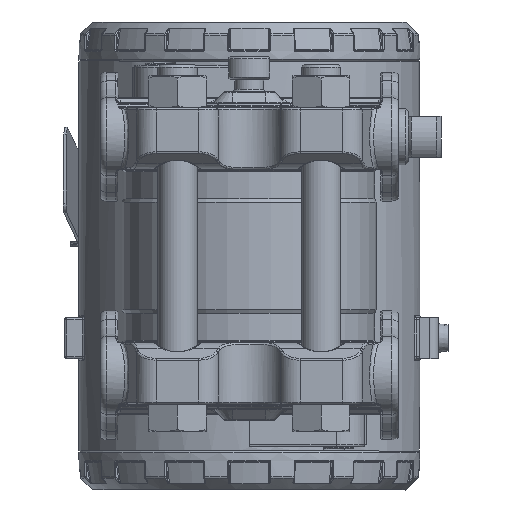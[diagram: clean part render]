
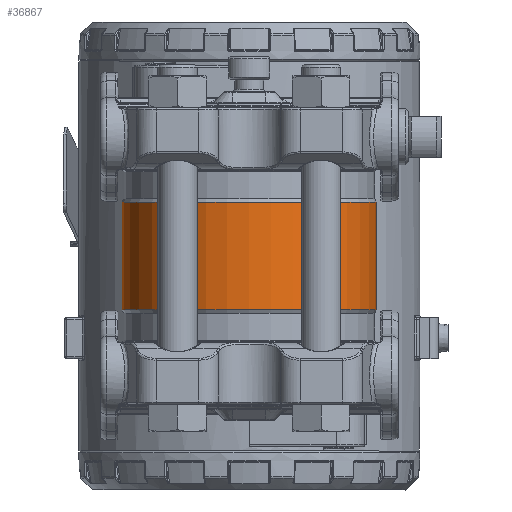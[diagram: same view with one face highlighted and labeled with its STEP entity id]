
A CAD part, left-side view. The second image highlights one B-rep face of the part: STEP entity #36867.
In plain terms, the highlighted cylindrical face has radius 31 mm (diameter 62 mm), a full revolution.
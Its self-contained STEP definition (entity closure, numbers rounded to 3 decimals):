
#1639=B_SPLINE_CURVE_WITH_KNOTS('',3,(#65266,#65267,#65268,#65269,#65270,
#65271),.UNSPECIFIED.,.F.,.F.,(4,1,1,4),(0.,0.548,0.913,
1.279),.UNSPECIFIED.);
#1640=B_SPLINE_CURVE_WITH_KNOTS('',3,(#65315,#65316,#65317,#65318,#65319,
#65320,#65321),.UNSPECIFIED.,.F.,.F.,(4,1,1,1,4),(0.,0.274,
0.548,0.913,1.279),.UNSPECIFIED.);
#1641=B_SPLINE_CURVE_WITH_KNOTS('',3,(#65358,#65359,#65360,#65361,#65362,
#65363),.UNSPECIFIED.,.F.,.F.,(4,1,1,4),(0.,0.548,0.913,
1.279),.UNSPECIFIED.);
#1642=B_SPLINE_CURVE_WITH_KNOTS('',3,(#65405,#65406,#65407,#65408,#65409,
#65410,#65411),.UNSPECIFIED.,.F.,.F.,(4,1,1,1,4),(0.,
0.274,0.548,0.913,1.279),
 .UNSPECIFIED.);
#3679=CYLINDRICAL_SURFACE('',#40882,31.);
#4907=FACE_OUTER_BOUND('',#7406,.T.);
#7406=EDGE_LOOP('',(#28134,#28135,#28136,#28137,#28138,#28139,#28140,#28141,
#28142,#28143,#28144,#28145,#28146,#28147,#28148,#28149,#28150,#28151));
#9575=LINE('',#65233,#10950);
#9576=LINE('',#65325,#10951);
#9577=LINE('',#65413,#10952);
#9578=LINE('',#65414,#10953);
#10950=VECTOR('',#48361,10.);
#10951=VECTOR('',#48378,10.);
#10952=VECTOR('',#48391,31.);
#10953=VECTOR('',#48392,31.);
#12871=CIRCLE('',#40736,31.);
#12872=CIRCLE('',#40737,31.);
#12877=CIRCLE('',#40744,31.);
#12878=CIRCLE('',#40745,31.);
#12951=CIRCLE('',#40872,31.);
#12952=CIRCLE('',#40873,31.);
#12957=CIRCLE('',#40880,31.);
#12958=CIRCLE('',#40881,31.);
#15922=VERTEX_POINT('',#64717);
#15923=VERTEX_POINT('',#64718);
#15929=VERTEX_POINT('',#64734);
#15930=VERTEX_POINT('',#64736);
#16009=VERTEX_POINT('',#65229);
#16010=VERTEX_POINT('',#65231);
#16011=VERTEX_POINT('',#65264);
#16012=VERTEX_POINT('',#65273);
#16013=VERTEX_POINT('',#65275);
#16014=VERTEX_POINT('',#65313);
#16015=VERTEX_POINT('',#65323);
#16016=VERTEX_POINT('',#65356);
#16017=VERTEX_POINT('',#65365);
#16018=VERTEX_POINT('',#65367);
#20132=EDGE_CURVE('',#15922,#15923,#12871,.T.);
#20133=EDGE_CURVE('',#15923,#15922,#12872,.T.);
#20141=EDGE_CURVE('',#15930,#15929,#12877,.T.);
#20142=EDGE_CURVE('',#15929,#15930,#12878,.T.);
#20267=EDGE_CURVE('',#16010,#16009,#9575,.T.);
#20269=EDGE_CURVE('',#16011,#16010,#1639,.T.);
#20271=EDGE_CURVE('',#16012,#16013,#12951,.T.);
#20272=EDGE_CURVE('',#16013,#16011,#12952,.T.);
#20274=EDGE_CURVE('',#16014,#16012,#1640,.T.);
#20276=EDGE_CURVE('',#16015,#16014,#9576,.T.);
#20278=EDGE_CURVE('',#16016,#16015,#1641,.T.);
#20280=EDGE_CURVE('',#16017,#16018,#12957,.T.);
#20281=EDGE_CURVE('',#16018,#16016,#12958,.T.);
#20282=EDGE_CURVE('',#16009,#16017,#1642,.T.);
#20283=EDGE_CURVE('',#15930,#16018,#9577,.T.);
#20284=EDGE_CURVE('',#16013,#15922,#9578,.T.);
#28134=ORIENTED_EDGE('',*,*,#20141,.T.);
#28135=ORIENTED_EDGE('',*,*,#20142,.T.);
#28136=ORIENTED_EDGE('',*,*,#20283,.T.);
#28137=ORIENTED_EDGE('',*,*,#20280,.F.);
#28138=ORIENTED_EDGE('',*,*,#20282,.F.);
#28139=ORIENTED_EDGE('',*,*,#20267,.F.);
#28140=ORIENTED_EDGE('',*,*,#20269,.F.);
#28141=ORIENTED_EDGE('',*,*,#20272,.F.);
#28142=ORIENTED_EDGE('',*,*,#20284,.T.);
#28143=ORIENTED_EDGE('',*,*,#20132,.T.);
#28144=ORIENTED_EDGE('',*,*,#20133,.T.);
#28145=ORIENTED_EDGE('',*,*,#20284,.F.);
#28146=ORIENTED_EDGE('',*,*,#20271,.F.);
#28147=ORIENTED_EDGE('',*,*,#20274,.F.);
#28148=ORIENTED_EDGE('',*,*,#20276,.F.);
#28149=ORIENTED_EDGE('',*,*,#20278,.F.);
#28150=ORIENTED_EDGE('',*,*,#20281,.F.);
#28151=ORIENTED_EDGE('',*,*,#20283,.F.);
#36867=ADVANCED_FACE('',(#4907),#3679,.T.);
#40736=AXIS2_PLACEMENT_3D('',#64719,#48054,#48055);
#40737=AXIS2_PLACEMENT_3D('',#64720,#48056,#48057);
#40744=AXIS2_PLACEMENT_3D('',#64737,#48073,#48074);
#40745=AXIS2_PLACEMENT_3D('',#64738,#48075,#48076);
#40872=AXIS2_PLACEMENT_3D('',#65276,#48368,#48369);
#40873=AXIS2_PLACEMENT_3D('',#65277,#48370,#48371);
#40880=AXIS2_PLACEMENT_3D('',#65368,#48385,#48386);
#40881=AXIS2_PLACEMENT_3D('',#65369,#48387,#48388);
#40882=AXIS2_PLACEMENT_3D('',#65412,#48389,#48390);
#48054=DIRECTION('center_axis',(0.,0.,1.));
#48055=DIRECTION('ref_axis',(-1.,0.,0.));
#48056=DIRECTION('center_axis',(0.,0.,1.));
#48057=DIRECTION('ref_axis',(-1.,0.,0.));
#48073=DIRECTION('center_axis',(0.,0.,-1.));
#48074=DIRECTION('ref_axis',(-1.,0.,0.));
#48075=DIRECTION('center_axis',(0.,0.,-1.));
#48076=DIRECTION('ref_axis',(-1.,0.,0.));
#48361=DIRECTION('',(0.,0.,1.));
#48368=DIRECTION('center_axis',(0.,0.,1.));
#48369=DIRECTION('ref_axis',(1.,0.,0.));
#48370=DIRECTION('center_axis',(0.,0.,1.));
#48371=DIRECTION('ref_axis',(1.,0.,0.));
#48378=DIRECTION('',(0.,0.,-1.));
#48385=DIRECTION('center_axis',(0.,0.,-1.));
#48386=DIRECTION('ref_axis',(1.,0.,0.));
#48387=DIRECTION('center_axis',(0.,0.,-1.));
#48388=DIRECTION('ref_axis',(1.,0.,0.));
#48389=DIRECTION('center_axis',(0.,0.,1.));
#48390=DIRECTION('ref_axis',(-1.,0.,0.));
#48391=DIRECTION('',(0.,0.,-1.));
#48392=DIRECTION('',(0.,0.,-1.));
#64717=CARTESIAN_POINT('',(31.,0.,-13.134));
#64718=CARTESIAN_POINT('',(-31.,0.,-13.134));
#64719=CARTESIAN_POINT('Origin',(0.,0.,-13.134));
#64720=CARTESIAN_POINT('Origin',(0.,0.,-13.134));
#64734=CARTESIAN_POINT('',(-31.,0.,13.134));
#64736=CARTESIAN_POINT('',(31.,0.,13.134));
#64737=CARTESIAN_POINT('Origin',(0.,0.,13.134));
#64738=CARTESIAN_POINT('Origin',(0.,0.,13.134));
#65229=CARTESIAN_POINT('',(28.645,11.853,5.));
#65231=CARTESIAN_POINT('',(28.645,11.853,-5.));
#65233=CARTESIAN_POINT('',(28.645,11.853,0.));
#65264=CARTESIAN_POINT('',(30.663,4.559,-13.));
#65266=CARTESIAN_POINT('Ctrl Pts',(30.663,4.559,-13.));
#65267=CARTESIAN_POINT('Ctrl Pts',(30.418,6.206,-13.));
#65268=CARTESIAN_POINT('Ctrl Pts',(29.764,8.89,-11.953));
#65269=CARTESIAN_POINT('Ctrl Pts',(28.867,11.328,-8.643));
#65270=CARTESIAN_POINT('Ctrl Pts',(28.645,11.853,-6.218));
#65271=CARTESIAN_POINT('Ctrl Pts',(28.645,11.853,-5.));
#65273=CARTESIAN_POINT('',(30.663,-4.559,-13.));
#65275=CARTESIAN_POINT('',(31.,0.,-13.));
#65276=CARTESIAN_POINT('Origin',(0.,0.,-13.));
#65277=CARTESIAN_POINT('Origin',(0.,0.,-13.));
#65313=CARTESIAN_POINT('',(28.645,-11.853,-5.));
#65315=CARTESIAN_POINT('Ctrl Pts',(28.645,-11.853,-5.));
#65316=CARTESIAN_POINT('Ctrl Pts',(28.645,-11.853,-5.913));
#65317=CARTESIAN_POINT('Ctrl Pts',(28.767,-11.563,-7.738));
#65318=CARTESIAN_POINT('Ctrl Pts',(29.292,-10.206,-10.383));
#65319=CARTESIAN_POINT('Ctrl Pts',(30.048,-7.829,-12.448));
#65320=CARTESIAN_POINT('Ctrl Pts',(30.5,-5.657,-13.));
#65321=CARTESIAN_POINT('Ctrl Pts',(30.663,-4.559,-13.));
#65323=CARTESIAN_POINT('',(28.645,-11.853,5.));
#65325=CARTESIAN_POINT('',(28.645,-11.853,0.));
#65356=CARTESIAN_POINT('',(30.663,-4.559,13.));
#65358=CARTESIAN_POINT('Ctrl Pts',(30.663,-4.559,13.));
#65359=CARTESIAN_POINT('Ctrl Pts',(30.418,-6.206,13.));
#65360=CARTESIAN_POINT('Ctrl Pts',(29.764,-8.89,11.953));
#65361=CARTESIAN_POINT('Ctrl Pts',(28.867,-11.328,8.643));
#65362=CARTESIAN_POINT('Ctrl Pts',(28.645,-11.853,6.218));
#65363=CARTESIAN_POINT('Ctrl Pts',(28.645,-11.853,5.));
#65365=CARTESIAN_POINT('',(30.663,4.559,13.));
#65367=CARTESIAN_POINT('',(31.,0.,13.));
#65368=CARTESIAN_POINT('Origin',(0.,0.,13.));
#65369=CARTESIAN_POINT('Origin',(0.,0.,13.));
#65405=CARTESIAN_POINT('Ctrl Pts',(28.645,11.853,5.));
#65406=CARTESIAN_POINT('Ctrl Pts',(28.645,11.853,5.913));
#65407=CARTESIAN_POINT('Ctrl Pts',(28.767,11.563,7.738));
#65408=CARTESIAN_POINT('Ctrl Pts',(29.292,10.206,10.383));
#65409=CARTESIAN_POINT('Ctrl Pts',(30.048,7.829,12.448));
#65410=CARTESIAN_POINT('Ctrl Pts',(30.5,5.657,13.));
#65411=CARTESIAN_POINT('Ctrl Pts',(30.663,4.559,13.));
#65412=CARTESIAN_POINT('Origin',(0.,0.,0.));
#65413=CARTESIAN_POINT('',(31.,0.,0.));
#65414=CARTESIAN_POINT('',(31.,0.,0.));
